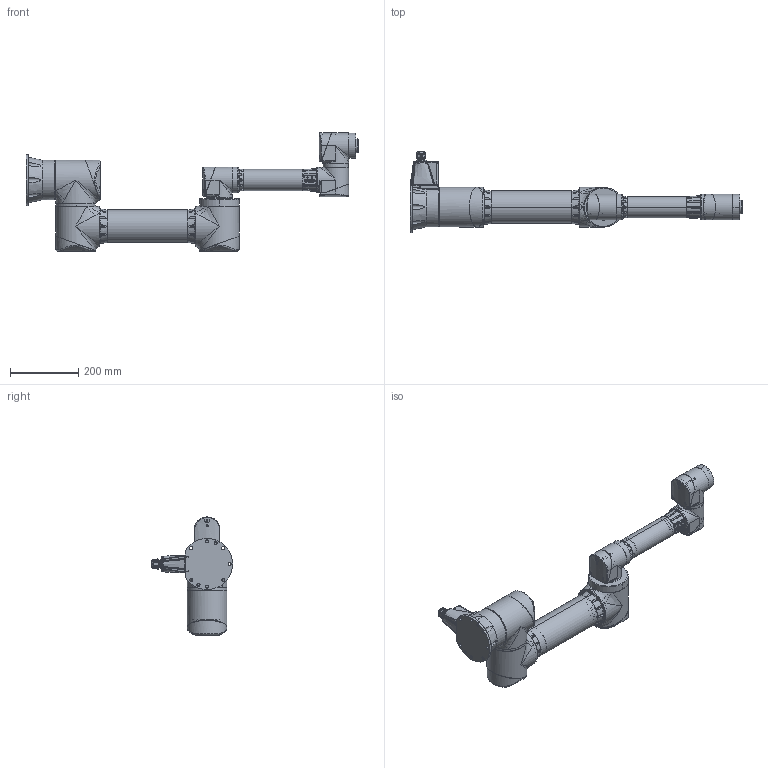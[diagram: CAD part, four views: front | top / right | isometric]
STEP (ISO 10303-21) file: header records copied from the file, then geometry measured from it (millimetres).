
FILE_DESCRIPTION((''),'2;1');
FILE_NAME('ZRA_0507N_ASM','2022-06-08T18:52:49',('SonJeongWon'),(''),'CREO PARAMETRIC BY PTC INC, 2020354','CREO PARAMETRIC BY PTC INC, 2020354','');
FILE_SCHEMA(('CONFIG_CONTROL_DESIGN'));
Products named in the file (25): FLANGE_B; HOLDER_M; COVER_M; MODULE_M_ASM; RING_M; ARM1_PIPE; FLANGE_ARM1; ARM1_ASM; FLANGE_J3; HOLDER_S; COVER_S; MODULE_S_ASM; PIPE2; FLANGE_J4; FLANGE_J5; PLATE; PORT; ARM2_ASM; FLANGE_E; RING_S; COVER_J; CABLE; PLATE_J; COVER_J_ASM; ZRA_0507N_ASM
Assembly tree (29 placements, depth 3):
  ZRA_0507N_ASM
    FLANGE_B
    MODULE_M_ASM  x3
      HOLDER_M
      COVER_M
    RING_M
    ARM1_ASM
      ARM1_PIPE
      FLANGE_ARM1  x2
    FLANGE_J3
    MODULE_S_ASM  x3
      HOLDER_S
      COVER_S
    ARM2_ASM
      PIPE2
      FLANGE_J4
      FLANGE_J5
      PLATE
      PORT
    FLANGE_E
    RING_S
    COVER_J_ASM
      COVER_J
      CABLE
      PLATE_J
Bounding box: 970.1 x 237.3 x 344.89 mm (x, y, z)
Volume: 12064296.6 mm3; surface area: 923209.2 mm2
Topology: 28 solids, 212 shells, 3861 faces, 10478 edges, 6914 vertices
Faces by surface type: cylinder 1409, plane 1297, bspline 650, torus 269, cone 210, sphere 18, extrusion 8
Entity records: 146255 total; most frequent: CARTESIAN_POINT 72340, ORIENTED_EDGE 16264, DIRECTION 13894, EDGE_CURVE 8266, VERTEX_POINT 5414, AXIS2_PLACEMENT_3D 5218, VECTOR 3458, LINE 3450
